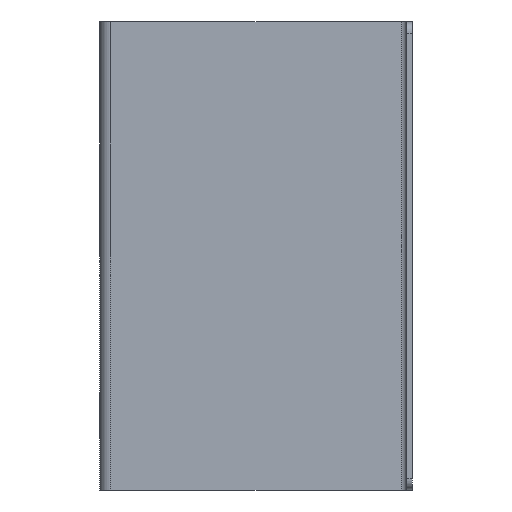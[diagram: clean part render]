
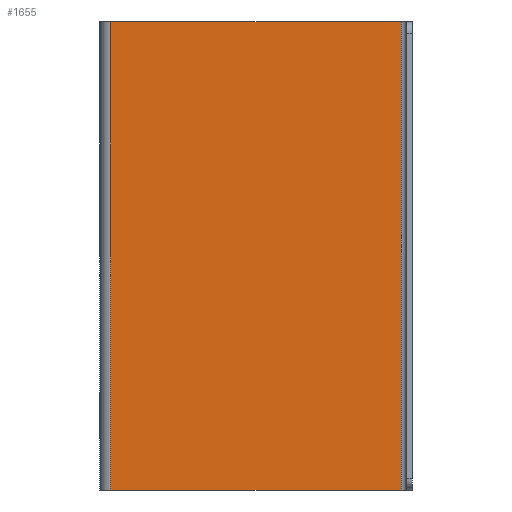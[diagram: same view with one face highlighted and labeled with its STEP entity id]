
A CAD part, left-side view. The second image highlights one B-rep face of the part: STEP entity #1655.
In plain terms, the highlighted planar face has unit normal (-1, 0, 0).
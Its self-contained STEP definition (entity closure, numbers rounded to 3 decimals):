
#492=DIRECTION('',(0.,-1.,0.));
#493=VECTOR('',#492,77.5);
#494=CARTESIAN_POINT('',(-67.5,79.,62.5));
#495=LINE('',#494,#493);
#504=DIRECTION('',(0.,0.,-1.));
#505=VECTOR('',#504,125.);
#506=CARTESIAN_POINT('',(-67.5,79.,62.5));
#507=LINE('',#506,#505);
#508=DIRECTION('',(0.,0.,1.));
#509=VECTOR('',#508,125.);
#510=CARTESIAN_POINT('',(-67.5,1.5,-62.5));
#511=LINE('',#510,#509);
#512=DIRECTION('',(0.,-1.,0.));
#513=VECTOR('',#512,77.5);
#514=CARTESIAN_POINT('',(-67.5,79.,-62.5));
#515=LINE('',#514,#513);
#714=CARTESIAN_POINT('',(-67.5,1.5,-62.5));
#715=CARTESIAN_POINT('',(-67.5,1.5,62.5));
#716=VERTEX_POINT('',#714);
#717=VERTEX_POINT('',#715);
#730=CARTESIAN_POINT('',(-67.5,79.,62.5));
#731=CARTESIAN_POINT('',(-67.5,79.,-62.5));
#732=VERTEX_POINT('',#730);
#733=VERTEX_POINT('',#731);
#1643=CARTESIAN_POINT('',(-67.5,82.,-62.5));
#1644=DIRECTION('',(-1.,0.,0.));
#1645=DIRECTION('',(0.,-1.,0.));
#1646=AXIS2_PLACEMENT_3D('',#1643,#1644,#1645);
#1647=PLANE('',#1646);
#1648=ORIENTED_EDGE('',*,*,#1351,.F.);
#1649=ORIENTED_EDGE('',*,*,#1635,.T.);
#1650=ORIENTED_EDGE('',*,*,#1094,.F.);
#1652=ORIENTED_EDGE('',*,*,#1651,.F.);
#1653=EDGE_LOOP('',(#1648,#1649,#1650,#1652));
#1654=FACE_OUTER_BOUND('',#1653,.F.);
#1094=EDGE_CURVE('',#716,#717,#511,.T.);
#1351=EDGE_CURVE('',#732,#733,#507,.T.);
#1635=EDGE_CURVE('',#732,#717,#495,.T.);
#1651=EDGE_CURVE('',#733,#716,#515,.T.);
#1655=ADVANCED_FACE('',(#1654),#1647,.T.);
